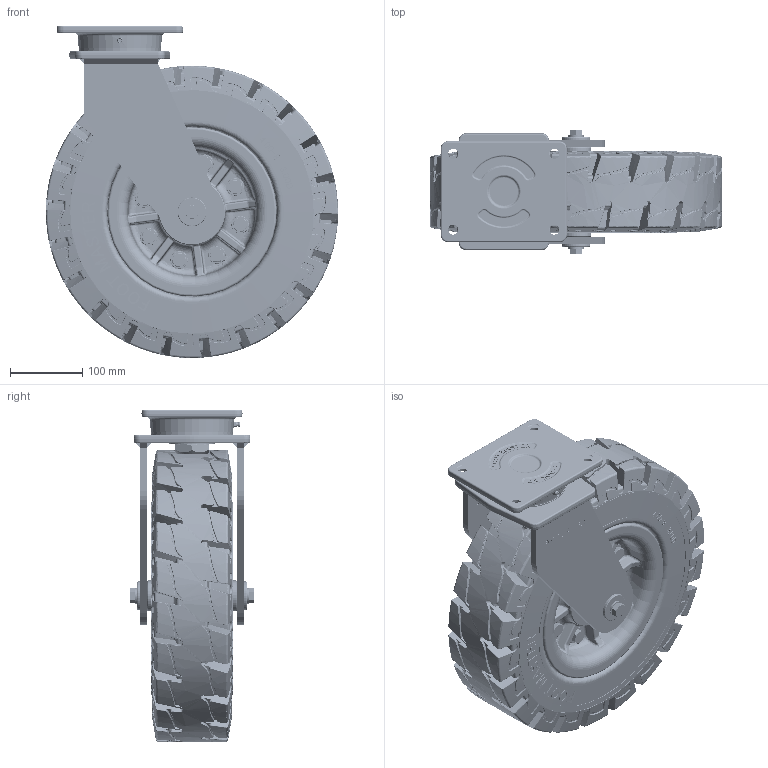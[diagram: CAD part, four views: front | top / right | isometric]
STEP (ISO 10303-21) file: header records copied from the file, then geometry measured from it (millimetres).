
FILE_DESCRIPTION(/* description */ (''),/* implementation_level */ '2;1');
FILE_NAME(/* name */ '\\192.168.10.38\지덕공유\1.기술연구소\2.연구개발 진행중\121.Solidtire caster_2024.11.22\제품설계\3D\홈페이지용\GT-400\11.GT-400-ASF-TRD.stp',/* time_stamp */ '2025-09-01T11:32:33+09:00',/* author */ ('admin'),/* organization */ (''),/* preprocessor_version */ 'ST-DEVELOPER v18.1',/* originating_system */ 'Autodesk Inventor 2021',/* authorisation */ '');
FILE_SCHEMA (('AUTOMOTIVE_DESIGN { 1 0 10303 214 3 1 1 }'));
Length unit declared in the file: millimetre
Products named in the file (1): 11.GT-400-ASF-TIRE-Rev01_2025.08.08_Shrinkwrap_1
Bounding box: 404.94 x 173 x 459.93 mm (x, y, z)
Volume: 13389407.7 mm3; surface area: 778218.8 mm2
Topology: 1 solids, 1 shells, 6164 faces, 15607 edges, 9563 vertices
Faces by surface type: bspline 3142, plane 1308, cylinder 796, torus 454, cone 343, sphere 121
Full cylindrical faces by diameter (mm): 6 x1, 12 x8, 14 x4, 18.5 x8, 24 x8, 40 x2, 42.7 x2, 62.5 x1, 113 x1, 114 x1, 258.997 x2, 317.998 x2, 333.998 x2, 336.998 x2
Entity records: 271989 total; most frequent: CARTESIAN_POINT 141770, ORIENTED_EDGE 30966, DIRECTION 17320, EDGE_CURVE 15483, VERTEX_POINT 9563, B_SPLINE_CURVE_WITH_KNOTS 7343, AXIS2_PLACEMENT_3D 6730, EDGE_LOOP 6420
